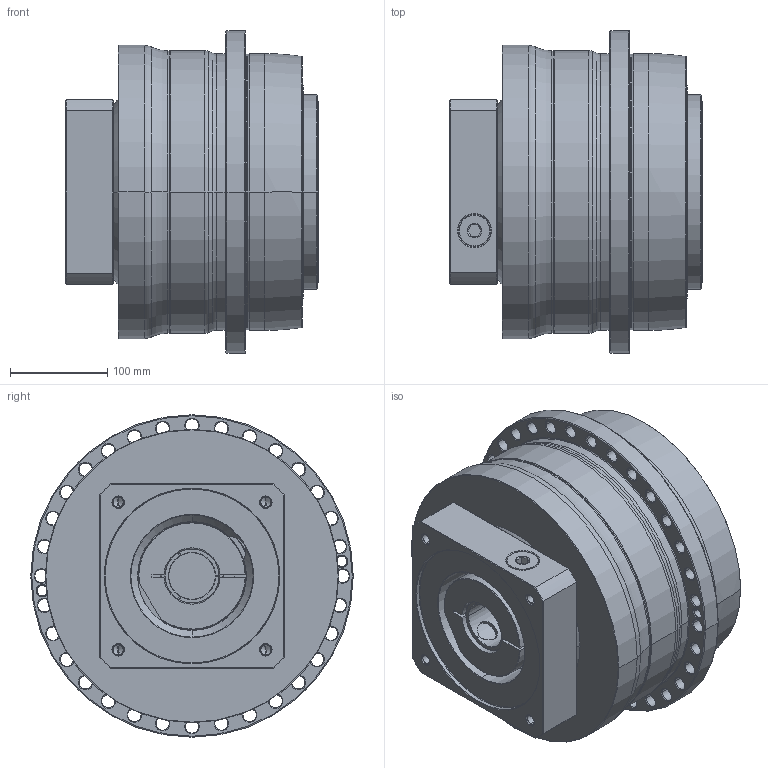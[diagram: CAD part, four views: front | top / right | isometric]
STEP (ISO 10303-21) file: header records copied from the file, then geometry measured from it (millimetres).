
FILE_DESCRIPTION((''),'2;1');
FILE_NAME('AP285_1ST_48-P0409B10201_ASM','2018-05-28T',('d01226'),(''),'PRO/ENGINEER BY PARAMETRIC TECHNOLOGY CORPORATION, 2008410','PRO/ENGINEER BY PARAMETRIC TECHNOLOGY CORPORATION, 2008410','');
FILE_SCHEMA(('CONFIG_CONTROL_DESIGN'));
Length unit declared in the file: millimetre
Products named in the file (9): P0278801003; P0359801103; P1318810301; P0503B00016; P0912853001; P1211800002; P0409B10201; 21711426021; AP285_1ST_48-P0409B10201_ASM
Assembly tree (8 placements, depth 2):
  AP285_1ST_48-P0409B10201_ASM
    P0278801003
    P0359801103
    P1318810301
    P0503B00016
    P0912853001
    P1211800002
    P0409B10201
    21711426021
Bounding box: 260 x 332 x 332 mm (x, y, z)
Volume: 13779989.2 mm3; surface area: 964085.2 mm2
Topology: 9 solids, 32 shells, 671 faces, 1561 edges, 952 vertices
Faces by surface type: cylinder 271, cone 218, plane 100, torus 68, bspline 14
Entity records: 24285 total; most frequent: CARTESIAN_POINT 8139, DIRECTION 3709, ORIENTED_EDGE 3012, AXIS2_PLACEMENT_3D 1578, EDGE_CURVE 1553, VERTEX_POINT 952, CIRCLE 892, EDGE_LOOP 831
